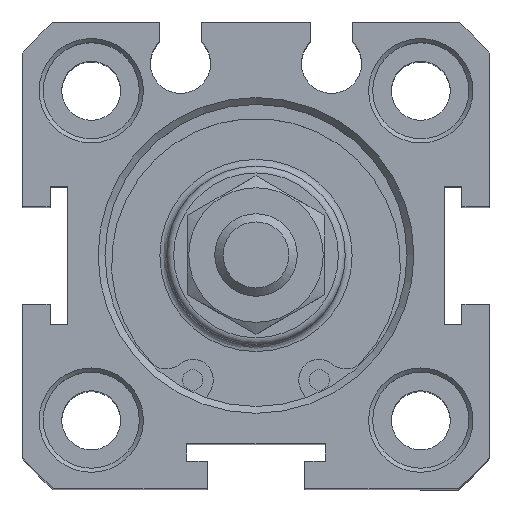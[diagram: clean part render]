
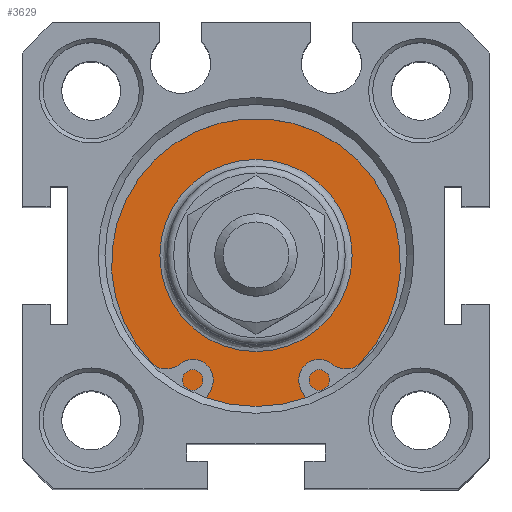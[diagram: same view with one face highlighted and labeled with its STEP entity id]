
A CAD part, top view. The second image highlights one B-rep face of the part: STEP entity #3629.
In plain terms, the highlighted planar face has unit normal (0, 0, 1).
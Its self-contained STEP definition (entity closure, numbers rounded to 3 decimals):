
#3567=CARTESIAN_POINT('',(0.957,6.522,46.8));
#3568=VERTEX_POINT('',#3567);
#3569=CARTESIAN_POINT('',(0.957,-0.478,46.8));
#3570=DIRECTION('',(0.0,0.0,1.0));
#3571=DIRECTION('',(0.0,-1.0,0.0));
#3572=AXIS2_PLACEMENT_3D('',#3569,#3570,#3571);
#3573=CIRCLE('',#3572,7.);
#3574=EDGE_CURVE('',#3568,#3568,#3573,.T.);
#3610=CARTESIAN_POINT('',(0.957,8.272,46.8));
#3611=DIRECTION('',(0.0,0.0,1.0));
#3612=DIRECTION('',(1.0,0.0,0.0));
#3613=AXIS2_PLACEMENT_3D('',#3610,#3611,#3612);
#3614=PLANE('',#3613);
#3615=CARTESIAN_POINT('',(0.957,10.522,46.8));
#3616=VERTEX_POINT('',#3615);
#3617=CARTESIAN_POINT('',(0.957,-0.478,46.8));
#3618=DIRECTION('',(0.0,0.0,1.0));
#3619=DIRECTION('',(0.0,1.0,0.0));
#3620=AXIS2_PLACEMENT_3D('',#3617,#3618,#3619);
#3621=CIRCLE('',#3620,11.);
#3622=EDGE_CURVE('',#3616,#3616,#3621,.T.);
#3623=ORIENTED_EDGE('',*,*,#3622,.T.);
#3624=EDGE_LOOP('',(#3623));
#3625=FACE_OUTER_BOUND('',#3624,.T.);
#3626=ORIENTED_EDGE('',*,*,#3574,.F.);
#3627=EDGE_LOOP('',(#3626));
#3628=FACE_BOUND('',#3627,.T.);
#3629=ADVANCED_FACE('',(#3625,#3628),#3614,.T.);
